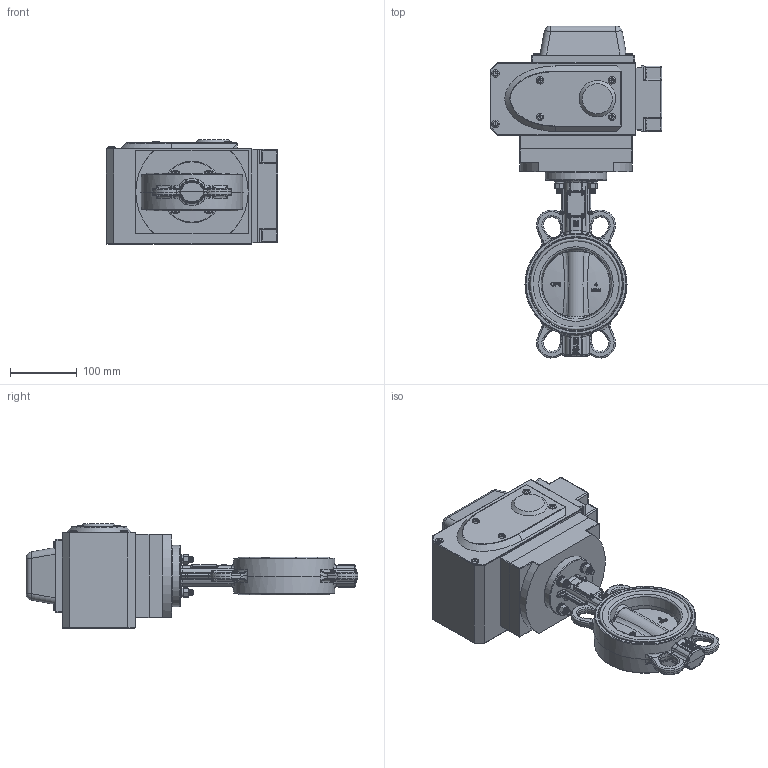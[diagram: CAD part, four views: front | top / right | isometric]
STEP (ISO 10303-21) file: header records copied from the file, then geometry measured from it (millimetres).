
FILE_DESCRIPTION(/* description */ (''),/* implementation_level */ '2;1');
FILE_NAME(/* name */ 'RSV81A220_380-DN100.stp',/* time_stamp */ '2024-08-20T14:20:50+07:00',/* author */ ('Eva'),/* organization */ (''),/* preprocessor_version */ 'ST-DEVELOPER v20',/* originating_system */ 'Autodesk Inventor 2025',/* authorisation */ '');
FILE_SCHEMA (('AUTOMOTIVE_DESIGN { 1 0 10303 214 3 1 1 }'));
Products named in the file (10): RSV81A220_380-DN100; DN100·§Ме; DN100 »Ёјь°еA; DN100Ин·§Чщ; DN100·§Цб; ±кЧјРНµЇ»ЙµжИ¦(±
кЧјРНµЇ»ЙµжИ¦ 8); ЖЅµжИ¦ Cј¶(ЖЅµжИ¦C
ј¶ 8); БщЅЗВЭДё Cј¶(
БщЅЗВЭДё Cј¶  M8-S); ДЪБщЅЗіБН·ВЭ¶¤(ДЪБщЅЗіБН·ВЭ¶¤ 
M8X40-S); ѕ«РЎРНµзЧ°
Assembly tree (25 placements, depth 2):
  RSV81A220_380-DN100
    DN100·§Ме
    DN100 »Ёјь°еA
    DN100Ин·§Чщ
    DN100·§Цб
    ДЪБщЅЗіБН·ВЭ¶¤(ДЪБщЅЗіБН·ВЭ¶¤ 
M8X40-S)  x5
    ЖЅµжИ¦ Cј¶(ЖЅµжИ¦C
ј¶ 8)  x5
    ±кЧјРНµЇ»ЙµжИ¦(±
кЧјРНµЇ»ЙµжИ¦ 8)  x5
    БщЅЗВЭДё Cј¶(
БщЅЗВЭДё Cј¶  M8-S)  x5
    ѕ«РЎРНµзЧ°
Bounding box: 256 x 495.91 x 156 mm (x, y, z)
Volume: 6614119.5 mm3; surface area: 434588.6 mm2
Topology: 25 solids, 25 shells, 2227 faces, 5588 edges, 3419 vertices
Faces by surface type: plane 630, cone 520, cylinder 493, bspline 428, torus 128, sphere 28
Full cylindrical faces by diameter (mm): 6.647 x50, 8 x170, 9 x5, 11.037 x4, 11.059 x6, 11.745 x4, 15.24 x5, 15.77 x1, 16 x5, 16.1 x6, 18 x1, 18.6 x1, 20 x1, 92 x1, 114 x2, 137 x2
Entity records: 77515 total; most frequent: CARTESIAN_POINT 42243, ORIENTED_EDGE 7558, DIRECTION 6701, EDGE_CURVE 3779, AXIS2_PLACEMENT_3D 2679, VERTEX_POINT 2315, EDGE_LOOP 1612, FACE_OUTER_BOUND 1535
